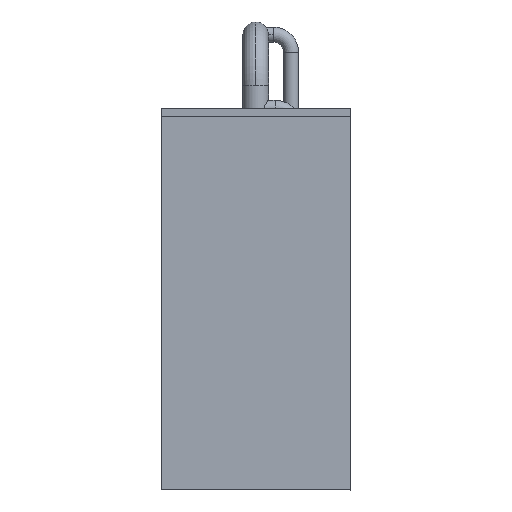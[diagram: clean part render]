
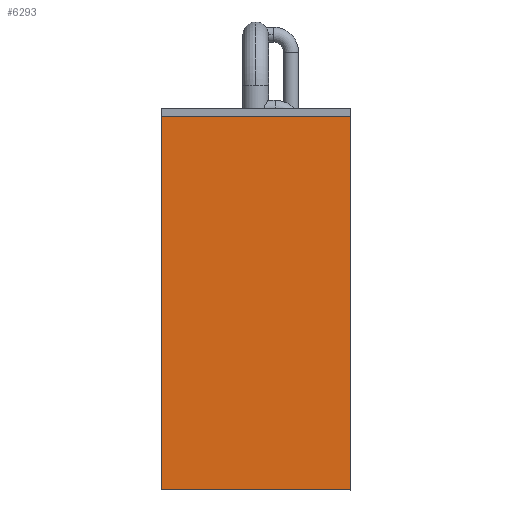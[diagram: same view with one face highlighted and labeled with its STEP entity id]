
A CAD part, left-side view. The second image highlights one B-rep face of the part: STEP entity #6293.
In plain terms, the highlighted planar face has unit normal (-1, 0, 0).
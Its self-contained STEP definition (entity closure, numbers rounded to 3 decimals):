
#5 = CARTESIAN_POINT ( 'NONE',  ( 0., 0., 75. ) ) ;
#14 = ORIENTED_EDGE ( 'NONE', *, *, #3419, .T. ) ;
#500 = B_SPLINE_CURVE_WITH_KNOTS ( 'NONE', 3,
 ( #4123, #4503, #3847, #3627 ),
 .UNSPECIFIED., .F., .F.,
 ( 4, 4 ),
 ( 0., 1. ),
 .UNSPECIFIED. ) ;
#973 = DIRECTION ( 'NONE',  ( 1., 0., 0. ) ) ;
#1300 = CARTESIAN_POINT ( 'NONE',  ( 0., 37., 75. ) ) ;
#1417 = CARTESIAN_POINT ( 'NONE',  ( 0., 37., 2. ) ) ;
#1452 = CARTESIAN_POINT ( 'NONE',  ( 0., 0., 2. ) ) ;
#1470 = CARTESIAN_POINT ( 'NONE',  ( 0., 0., 75. ) ) ;
#1585 = FACE_OUTER_BOUND ( 'NONE', #2838, .T. ) ;
#1589 = VERTEX_POINT ( 'NONE', #2530 ) ;
#1621 = CARTESIAN_POINT ( 'NONE',  ( 0., 37., 26.333 ) ) ;
#1836 = B_SPLINE_CURVE_WITH_KNOTS ( 'NONE', 3,
 ( #2323, #2257, #1621, #1417 ),
 .UNSPECIFIED., .F., .F.,
 ( 4, 4 ),
 ( 0., 1. ),
 .UNSPECIFIED. ) ;
#2257 = CARTESIAN_POINT ( 'NONE',  ( 0., 37., 50.667 ) ) ;
#2323 = CARTESIAN_POINT ( 'NONE',  ( 0., 37., 75. ) ) ;
#2420 = B_SPLINE_CURVE_WITH_KNOTS ( 'NONE', 3,
 ( #2725, #4593, #4796, #1452 ),
 .UNSPECIFIED., .F., .F.,
 ( 4, 4 ),
 ( 0., 1. ),
 .UNSPECIFIED. ) ;
#2475 = CARTESIAN_POINT ( 'NONE',  ( 0., 0., 2. ) ) ;
#2530 = CARTESIAN_POINT ( 'NONE',  ( 0., 37., 75. ) ) ;
#2725 = CARTESIAN_POINT ( 'NONE',  ( 0., 37., 2. ) ) ;
#2838 = EDGE_LOOP ( 'NONE', ( #2853, #6403, #14, #5001 ) ) ;
#2853 = ORIENTED_EDGE ( 'NONE', *, *, #4223, .T. ) ;
#2854 = CARTESIAN_POINT ( 'NONE',  ( 0., 12.333, 75. ) ) ;
#3042 = VERTEX_POINT ( 'NONE', #5 ) ;
#3110 = CARTESIAN_POINT ( 'NONE',  ( 0., 0., 2. ) ) ;
#3310 = B_SPLINE_CURVE_WITH_KNOTS ( 'NONE', 3,
 ( #1300, #3639, #2854, #1470 ),
 .UNSPECIFIED., .F., .F.,
 ( 4, 4 ),
 ( 0., 1. ),
 .UNSPECIFIED. ) ;
#3419 = EDGE_CURVE ( 'NONE', #4372, #3042, #500, .T. ) ;
#3627 = CARTESIAN_POINT ( 'NONE',  ( 0., 0., 75. ) ) ;
#3639 = CARTESIAN_POINT ( 'NONE',  ( 0., 24.667, 75. ) ) ;
#3847 = CARTESIAN_POINT ( 'NONE',  ( 0., 0., 50.667 ) ) ;
#3919 = CARTESIAN_POINT ( 'NONE',  ( 0., 37., 2. ) ) ;
#4123 = CARTESIAN_POINT ( 'NONE',  ( 0., 0., 2. ) ) ;
#4174 = PLANE ( 'NONE',  #4412 ) ;
#4223 = EDGE_CURVE ( 'NONE', #1589, #4919, #1836, .T. ) ;
#4372 = VERTEX_POINT ( 'NONE', #2475 ) ;
#4412 = AXIS2_PLACEMENT_3D ( 'NONE', #3110, #973, #4714 ) ;
#4503 = CARTESIAN_POINT ( 'NONE',  ( 0., 0., 26.333 ) ) ;
#4593 = CARTESIAN_POINT ( 'NONE',  ( 0., 24.667, 2. ) ) ;
#4611 = EDGE_CURVE ( 'NONE', #4919, #4372, #2420, .T. ) ;
#4714 = DIRECTION ( 'NONE',  ( 0., 0., 1. ) ) ;
#4756 = EDGE_CURVE ( 'NONE', #1589, #3042, #3310, .T. ) ;
#4796 = CARTESIAN_POINT ( 'NONE',  ( 0., 12.333, 2. ) ) ;
#4919 = VERTEX_POINT ( 'NONE', #3919 ) ;
#5001 = ORIENTED_EDGE ( 'NONE', *, *, #4756, .F. ) ;
#6293 = ADVANCED_FACE ( 'NONE', ( #1585 ), #4174, .F. ) ;
#6403 = ORIENTED_EDGE ( 'NONE', *, *, #4611, .T. ) ;
